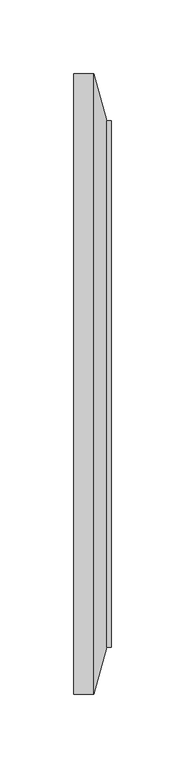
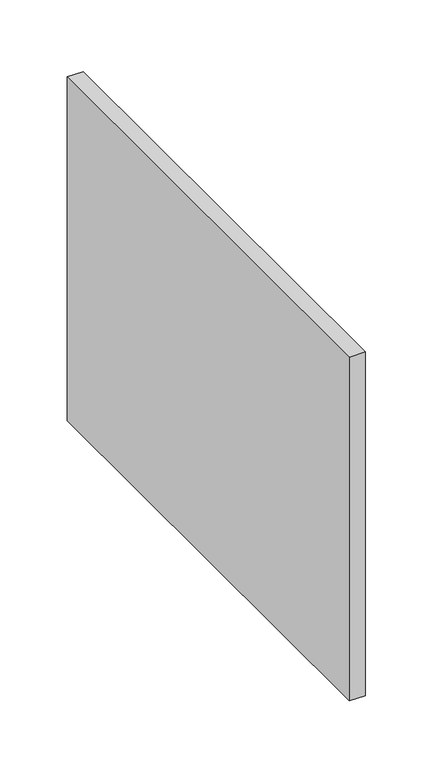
"""IFC4 building model written with IfcOpenShell, lengths in millimetres: proxy geometry, CAMBRIDGE^TABLE 2_4884 Rect-BASE DOOR."""

from ifc_helpers import new_model, si_unit, origin, place, context, project, spatial, faceted_brep, source, transform, mapped, element, save


def generic_models_6947fdd0(model_context):
    return source(origin(), model_context, "Body", "Brep", [
        faceted_brep([(1498.6, -569.11875, -765.96875), (1498.6, -569.11875, -453.23125), (1498.6, -148.43125, -453.23125), (1498.6, -148.43125, -765.96875), (1524.0, -537.36875, -734.21875), (1520.825, -537.36875, -734.21875), (1520.825, -180.18125, -734.21875), (1524.0, -180.18125, -734.21875), (1512.3176131, -569.11875, -765.96875), (1512.3176131, -148.43125, -765.96875), (1524.0, -537.36875, -484.98125), (1520.825, -537.36875, -484.98125), (1512.3176131, -569.11875, -453.23125), (1524.0, -180.18125, -484.98125), (1520.825, -180.18125, -484.98125), (1512.3176131, -148.43125, -453.23125)], [[[0, 1, 2, 3]], [[4, 5, 6, 7]], [[5, 8, 9, 6]], [[10, 11, 5, 4]], [[11, 12, 8, 5]], [[13, 14, 11, 10]], [[14, 15, 12, 11]], [[6, 9, 15, 14]], [[7, 6, 14, 13]], [[15, 9, 3, 2]], [[9, 8, 0, 3]], [[12, 15, 2, 1]], [[8, 12, 1, 0]], [[4, 7, 13, 10]]]),
    ])


if __name__ == "__main__":
    model = new_model("IFC4")
    model_context = context("Model", 3, world=origin())
    ifc_project = project(units=[si_unit("LENGTHUNIT", "METRE", prefix="MILLI")], contexts=[model_context])
    site = spatial("IfcSite", under=ifc_project)
    building = spatial("IfcBuilding", under=site)
    placement = place(None, origin())
    generic_models_shape = generic_models_6947fdd0(model_context)
    element("IfcBuildingElementProxy", 1, Name="CAMBRIDGE^TABLE 2_4884 Rect-BASE DOOR", ObjectType="CAMBRIDGE^TABLE 2_4884 Rect-BASE DOOR", at=placement, inside=building, context=model_context, shape_type="MappedRepresentation", body=[
        mapped(generic_models_shape, transform((0.0, 0.0, 0.0), x_axis=(1.0, 0.0, 0.0), y_axis=(0.0, 1.0, 0.0), z_axis=(0.0, 0.0, 1.0))),
    ])
    save(model, "model.ifc")
